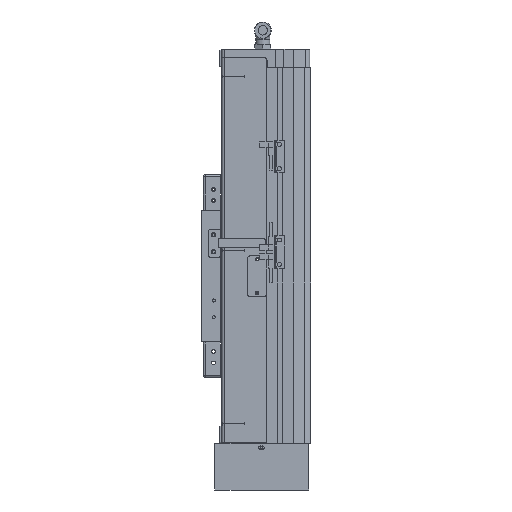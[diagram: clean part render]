
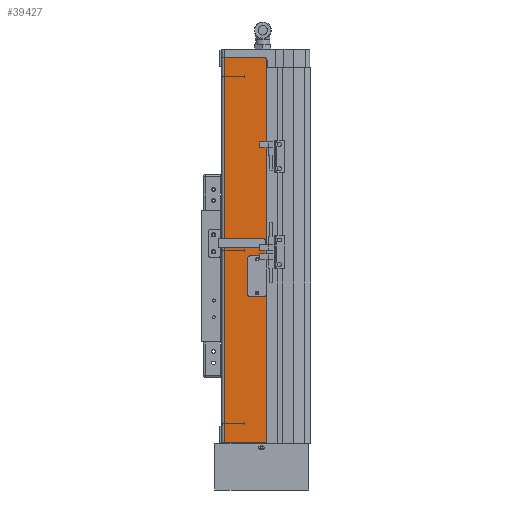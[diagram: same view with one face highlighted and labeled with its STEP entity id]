
A CAD part, left-side view. The second image highlights one B-rep face of the part: STEP entity #39427.
In plain terms, the highlighted planar face has unit normal (-1, 0, 0).
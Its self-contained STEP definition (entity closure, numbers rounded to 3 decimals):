
#6730 = CARTESIAN_POINT ( 'NONE',  ( -93.271, 16.68, -464.75 ) ) ;
#6731 = DIRECTION ( 'NONE',  ( 0., 0., 1. ) ) ;
#6732 = VECTOR ( 'NONE', #6731, 1000. ) ;
#6733 = CARTESIAN_POINT ( 'NONE',  ( -93.271, 16.68, -464.75 ) ) ;
#6734 = LINE ( 'NONE', #6733, #6732 ) ;
#6740 = CARTESIAN_POINT ( 'NONE',  ( -93.271, 16.68, -300.5 ) ) ;
#6850 = DIRECTION ( 'NONE',  ( 0., -1., 0. ) ) ;
#6851 = DIRECTION ( 'NONE',  ( -1., 0., 0. ) ) ;
#6852 = CARTESIAN_POINT ( 'NONE',  ( -93.271, 26.68, -305. ) ) ;
#6853 = AXIS2_PLACEMENT_3D ( 'NONE', #6852, #6851, #6850 ) ;
#6854 = CIRCLE ( 'NONE', #6853, 1.3 ) ;
#7000 = AXIS2_PLACEMENT_3D ( 'NONE', #7059, #7058, #7057 ) ;
#7002 = PLANE ( 'NONE',  #7000 ) ;
#7005 = FACE_OUTER_BOUND ( 'NONE', #34646, .T. ) ;
#7006 = FACE_BOUND ( 'NONE', #39437, .T. ) ;
#7007 = FACE_BOUND ( 'NONE', #39429, .T. ) ;
#7057 = DIRECTION ( 'NONE',  ( 0., -1., 0. ) ) ;
#7058 = DIRECTION ( 'NONE',  ( 1., 0., 0. ) ) ;
#7059 = CARTESIAN_POINT ( 'NONE',  ( -93.271, 61.68, -464.75 ) ) ;
#11606 = CARTESIAN_POINT ( 'NONE',  ( -93.271, 18.68, -56.25 ) ) ;
#11607 = CIRCLE ( 'NONE', #11619, 2. ) ;
#11608 = CARTESIAN_POINT ( 'NONE',  ( -93.271, 18.68, -54.25 ) ) ;
#11616 = DIRECTION ( 'NONE',  ( 0., -1., 0. ) ) ;
#11618 = DIRECTION ( 'NONE',  ( -1., 0., 0. ) ) ;
#11619 = AXIS2_PLACEMENT_3D ( 'NONE', #11606, #11618, #11616 ) ;
#11670 = DIRECTION ( 'NONE',  ( 0., 1., 0. ) ) ;
#11671 = VECTOR ( 'NONE', #11670, 1000. ) ;
#11674 = CARTESIAN_POINT ( 'NONE',  ( -93.271, 61.68, -464.75 ) ) ;
#11675 = LINE ( 'NONE', #11674, #11671 ) ;
#11680 = DIRECTION ( 'NONE',  ( 0., 0., 1. ) ) ;
#11682 = VECTOR ( 'NONE', #11680, 1000. ) ;
#11683 = CARTESIAN_POINT ( 'NONE',  ( -93.271, 61.68, -464.75 ) ) ;
#11697 = CARTESIAN_POINT ( 'NONE',  ( -93.271, 61.68, -464.75 ) ) ;
#11698 = CARTESIAN_POINT ( 'NONE',  ( -93.271, 61.68, -54.25 ) ) ;
#11717 = LINE ( 'NONE', #11683, #11682 ) ;
#11754 = CARTESIAN_POINT ( 'NONE',  ( -93.271, 36.68, -279.5 ) ) ;
#11769 = LINE ( 'NONE', #11785, #11783 ) ;
#11781 = DIRECTION ( 'NONE',  ( 0., 1., 0. ) ) ;
#11783 = VECTOR ( 'NONE', #11781, 1000. ) ;
#11785 = CARTESIAN_POINT ( 'NONE',  ( -93.271, 30.68, -273.5 ) ) ;
#11896 = DIRECTION ( 'NONE',  ( 0., 1., 0. ) ) ;
#11897 = VECTOR ( 'NONE', #11896, 1000. ) ;
#11898 = CARTESIAN_POINT ( 'NONE',  ( -93.271, 61.68, -54.25 ) ) ;
#11946 = LINE ( 'NONE', #11898, #11897 ) ;
#11998 = CARTESIAN_POINT ( 'NONE',  ( -93.271, 36.68, -294.5 ) ) ;
#12000 = LINE ( 'NONE', #11998, #12175 ) ;
#12106 = CARTESIAN_POINT ( 'NONE',  ( -93.271, 36.68, -294.5 ) ) ;
#12108 = DIRECTION ( 'NONE',  ( 0., 0., 1. ) ) ;
#12164 = DIRECTION ( 'NONE',  ( -1., 0., 0. ) ) ;
#12165 = CARTESIAN_POINT ( 'NONE',  ( -93.271, 30.68, -294.5 ) ) ;
#12167 = AXIS2_PLACEMENT_3D ( 'NONE', #12165, #12164, #12108 ) ;
#12173 = DIRECTION ( 'NONE',  ( 0., 0., -1. ) ) ;
#12175 = VECTOR ( 'NONE', #12173, 1000. ) ;
#12284 = CIRCLE ( 'NONE', #12167, 6. ) ;
#12316 = DIRECTION ( 'NONE',  ( 0., -1., 0. ) ) ;
#12318 = VECTOR ( 'NONE', #12316, 1000. ) ;
#12320 = CARTESIAN_POINT ( 'NONE',  ( -93.271, 30.68, -300.5 ) ) ;
#12321 = LINE ( 'NONE', #12320, #12318 ) ;
#12348 = CARTESIAN_POINT ( 'NONE',  ( -93.271, 30.68, -300.5 ) ) ;
#13030 = DIRECTION ( 'NONE',  ( 0., 0., 1. ) ) ;
#13031 = VECTOR ( 'NONE', #13030, 1000. ) ;
#13034 = CARTESIAN_POINT ( 'NONE',  ( -93.271, 16.68, -464.75 ) ) ;
#13035 = LINE ( 'NONE', #13034, #13031 ) ;
#16063 = CARTESIAN_POINT ( 'NONE',  ( -93.271, 16.68, -56.25 ) ) ;
#16102 = CARTESIAN_POINT ( 'NONE',  ( -93.271, 16.68, -273.5 ) ) ;
#20456 = CARTESIAN_POINT ( 'NONE',  ( -93.271, 27.98, -269. ) ) ;
#20457 = DIRECTION ( 'NONE',  ( 0., 1., 0. ) ) ;
#20458 = DIRECTION ( 'NONE',  ( -1., 0., 0. ) ) ;
#20460 = CARTESIAN_POINT ( 'NONE',  ( -93.271, 26.68, -269. ) ) ;
#20462 = AXIS2_PLACEMENT_3D ( 'NONE', #20460, #20458, #20457 ) ;
#20464 = CIRCLE ( 'NONE', #20462, 1.3 ) ;
#20467 = CARTESIAN_POINT ( 'NONE',  ( -93.271, 25.38, -269. ) ) ;
#20739 = CARTESIAN_POINT ( 'NONE',  ( -93.271, 27.98, -305. ) ) ;
#20740 = DIRECTION ( 'NONE',  ( 0., -1., 0. ) ) ;
#20741 = DIRECTION ( 'NONE',  ( -1., 0., 0. ) ) ;
#20742 = CARTESIAN_POINT ( 'NONE',  ( -93.271, 26.68, -305. ) ) ;
#20743 = AXIS2_PLACEMENT_3D ( 'NONE', #20742, #20741, #20740 ) ;
#20744 = CIRCLE ( 'NONE', #20743, 1.3 ) ;
#20745 = CARTESIAN_POINT ( 'NONE',  ( -93.271, 25.38, -305. ) ) ;
#22515 = CIRCLE ( 'NONE', #22575, 1.3 ) ;
#22558 = CARTESIAN_POINT ( 'NONE',  ( -93.271, 26.68, -269. ) ) ;
#22571 = DIRECTION ( 'NONE',  ( 0., 1., 0. ) ) ;
#22573 = DIRECTION ( 'NONE',  ( -1., 0., 0. ) ) ;
#22575 = AXIS2_PLACEMENT_3D ( 'NONE', #22558, #22573, #22571 ) ;
#23559 = CARTESIAN_POINT ( 'NONE',  ( -93.271, 30.68, -273.5 ) ) ;
#23575 = DIRECTION ( 'NONE',  ( 0., 0., 1. ) ) ;
#23576 = DIRECTION ( 'NONE',  ( -1., 0., 0. ) ) ;
#23577 = CARTESIAN_POINT ( 'NONE',  ( -93.271, 30.68, -279.5 ) ) ;
#23578 = AXIS2_PLACEMENT_3D ( 'NONE', #23577, #23576, #23575 ) ;
#23579 = CIRCLE ( 'NONE', #23578, 6. ) ;
#34646 = EDGE_LOOP ( 'NONE', ( #35660, #34648, #34652, #34655, #34663, #34693, #34699, #34703, #34704, #34708, #34716 ) ) ;
#34647 = VERTEX_POINT ( 'NONE', #11754 ) ;
#34648 = ORIENTED_EDGE ( 'NONE', *, *, #34650, .F. ) ;
#34650 = EDGE_CURVE ( 'NONE', #34994, #35664, #11769, .T. ) ;
#34652 = ORIENTED_EDGE ( 'NONE', *, *, #34858, .T. ) ;
#34655 = ORIENTED_EDGE ( 'NONE', *, *, #34657, .T. ) ;
#34657 = EDGE_CURVE ( 'NONE', #34983, #34661, #11607, .T. ) ;
#34661 = VERTEX_POINT ( 'NONE', #11608 ) ;
#34663 = ORIENTED_EDGE ( 'NONE', *, *, #34665, .T. ) ;
#34665 = EDGE_CURVE ( 'NONE', #34661, #34667, #11946, .T. ) ;
#34667 = VERTEX_POINT ( 'NONE', #11698 ) ;
#34669 = VERTEX_POINT ( 'NONE', #11697 ) ;
#34693 = ORIENTED_EDGE ( 'NONE', *, *, #34697, .F. ) ;
#34697 = EDGE_CURVE ( 'NONE', #34669, #34667, #11717, .T. ) ;
#34699 = ORIENTED_EDGE ( 'NONE', *, *, #34701, .F. ) ;
#34701 = EDGE_CURVE ( 'NONE', #39277, #34669, #11675, .T. ) ;
#34703 = ORIENTED_EDGE ( 'NONE', *, *, #39276, .T. ) ;
#34704 = ORIENTED_EDGE ( 'NONE', *, *, #34705, .F. ) ;
#34705 = EDGE_CURVE ( 'NONE', #34706, #39272, #12321, .T. ) ;
#34706 = VERTEX_POINT ( 'NONE', #12348 ) ;
#34708 = ORIENTED_EDGE ( 'NONE', *, *, #34713, .F. ) ;
#34713 = EDGE_CURVE ( 'NONE', #34715, #34706, #12284, .T. ) ;
#34715 = VERTEX_POINT ( 'NONE', #12106 ) ;
#34716 = ORIENTED_EDGE ( 'NONE', *, *, #34717, .F. ) ;
#34717 = EDGE_CURVE ( 'NONE', #34647, #34715, #12000, .T. ) ;
#34858 = EDGE_CURVE ( 'NONE', #34994, #34983, #13035, .T. ) ;
#34983 = VERTEX_POINT ( 'NONE', #16063 ) ;
#34994 = VERTEX_POINT ( 'NONE', #16102 ) ;
#35211 = ORIENTED_EDGE ( 'NONE', *, *, #35213, .F. ) ;
#35213 = EDGE_CURVE ( 'NONE', #43234, #43231, #22515, .T. ) ;
#35214 = ORIENTED_EDGE ( 'NONE', *, *, #43233, .F. ) ;
#35660 = ORIENTED_EDGE ( 'NONE', *, *, #35662, .F. ) ;
#35662 = EDGE_CURVE ( 'NONE', #35664, #34647, #23579, .T. ) ;
#35664 = VERTEX_POINT ( 'NONE', #23559 ) ;
#39272 = VERTEX_POINT ( 'NONE', #6740 ) ;
#39276 = EDGE_CURVE ( 'NONE', #39277, #39272, #6734, .T. ) ;
#39277 = VERTEX_POINT ( 'NONE', #6730 ) ;
#39427 = ADVANCED_FACE ( 'NONE', ( #7007, #7006, #7005 ), #7002, .F. ) ;
#39429 = EDGE_LOOP ( 'NONE', ( #39431, #39435 ) ) ;
#39431 = ORIENTED_EDGE ( 'NONE', *, *, #39433, .F. ) ;
#39433 = EDGE_CURVE ( 'NONE', #43319, #43314, #6854, .T. ) ;
#39435 = ORIENTED_EDGE ( 'NONE', *, *, #43318, .F. ) ;
#39437 = EDGE_LOOP ( 'NONE', ( #35211, #35214 ) ) ;
#43231 = VERTEX_POINT ( 'NONE', #20467 ) ;
#43233 = EDGE_CURVE ( 'NONE', #43231, #43234, #20464, .T. ) ;
#43234 = VERTEX_POINT ( 'NONE', #20456 ) ;
#43314 = VERTEX_POINT ( 'NONE', #20745 ) ;
#43318 = EDGE_CURVE ( 'NONE', #43314, #43319, #20744, .T. ) ;
#43319 = VERTEX_POINT ( 'NONE', #20739 ) ;
